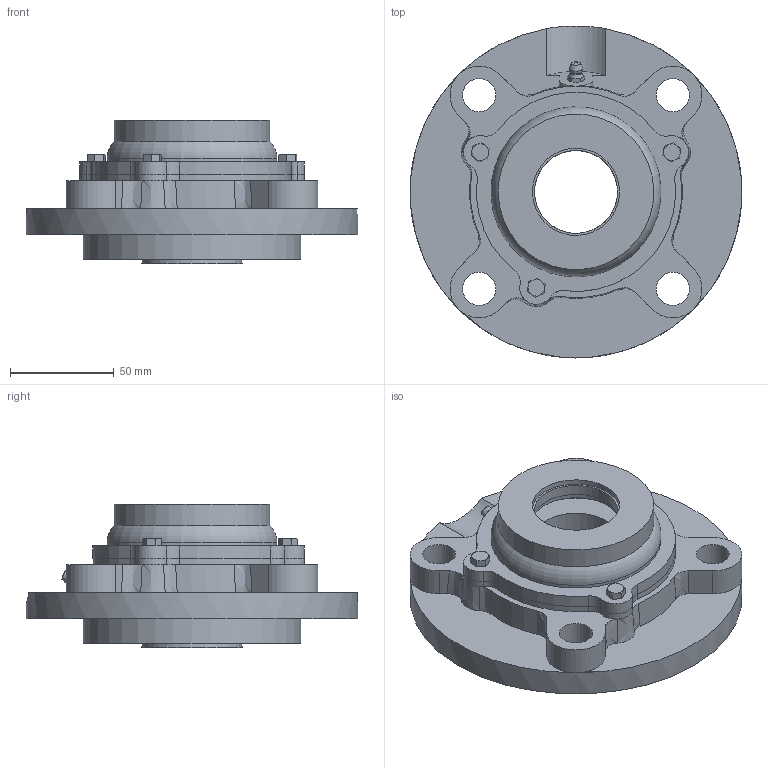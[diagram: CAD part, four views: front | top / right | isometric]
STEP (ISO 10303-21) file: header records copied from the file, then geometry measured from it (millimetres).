
FILE_DESCRIPTION((''),'2;1');
FILE_NAME('\\Ts-tgl068\j-cad-d-base\00.3DCADデータ作成フォルダ\02.フランジ形\CUKFC200\CUKFC209C+H.stp','2014-05-22T08:54:58',('btec_1106_2'),(''),'Autodesk Inventor 2012','Autodesk Inventor 2012','');
FILE_SCHEMA(('AUTOMOTIVE_DESIGN { 1 0 10303 214 1 1 1 1 }'));
Length unit declared in the file: millimetre
Products named in the file (7): CUKFC200C+H; CFC209; UK209; GU1; 209C40R; 209C40; M5X0
Assembly tree (8 placements, depth 3):
  CUKFC200C+H
    CFC209
    UK209
    GU1
    209C40R
      209C40
      M5X0  x3
Bounding box: 160 x 160 x 69 mm (x, y, z)
Volume: 478600 mm3; surface area: 115737 mm2
Topology: 7 solids, 7 shells, 301 faces, 761 edges, 489 vertices
Faces by surface type: plane 116, cylinder 88, cone 75, bspline 14, sphere 4, torus 4
Full cylindrical faces by diameter (mm): 4.134 x3, 5 x3, 5.359 x1, 6 x3, 6.35 x1, 16 x4, 40 x2, 42 x2, 57.3 x2, 75 x1, 82 x2, 86 x2, 105 x1, 160 x1
Entity records: 8602 total; most frequent: CARTESIAN_POINT 2382, ORIENTED_EDGE 1262, DIRECTION 1237, EDGE_CURVE 631, AXIS2_PLACEMENT_3D 521, VERTEX_POINT 428, EDGE_LOOP 346, FACE_OUTER_BOUND 267
